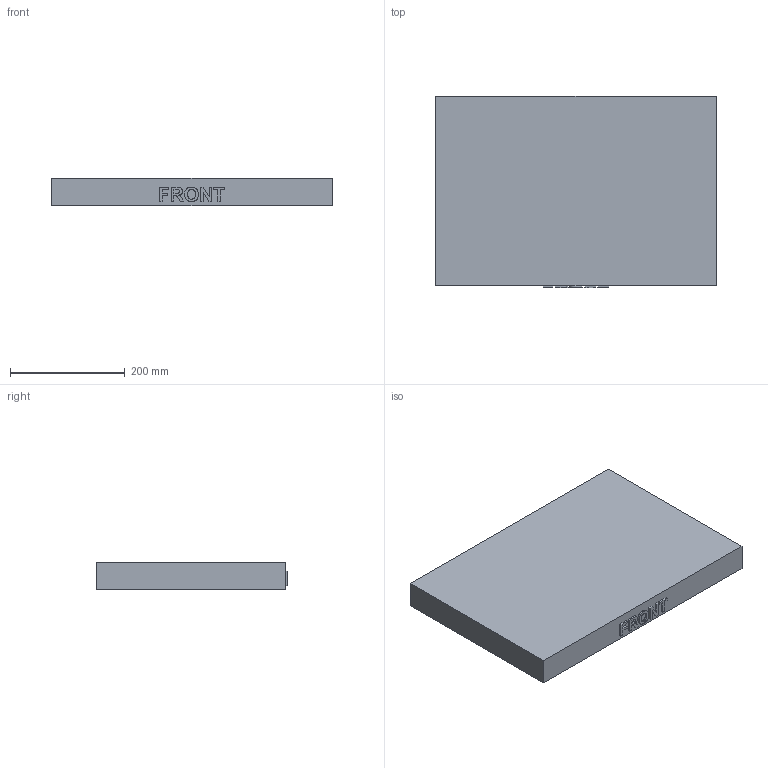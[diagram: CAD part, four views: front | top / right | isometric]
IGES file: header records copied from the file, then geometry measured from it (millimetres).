
Start section: Comment
Global section: file name: 2370-lid_internal_tub.igs; native system:  By UGS Corp.; preprocessor: XPlus GENERIC/IGES 3.0; author: Author; organization: Title; date: 20100513.082316; units: millimetre
Bounding box: 488.95 x 333.38 x 47.58 mm (x, y, z)
Surface area: 464914.7 mm2 (no closed solid volume)
Topology: 0 solids, 0 shells, 498 faces, 2744 edges, 2732 vertices
Faces by surface type: bspline 498
